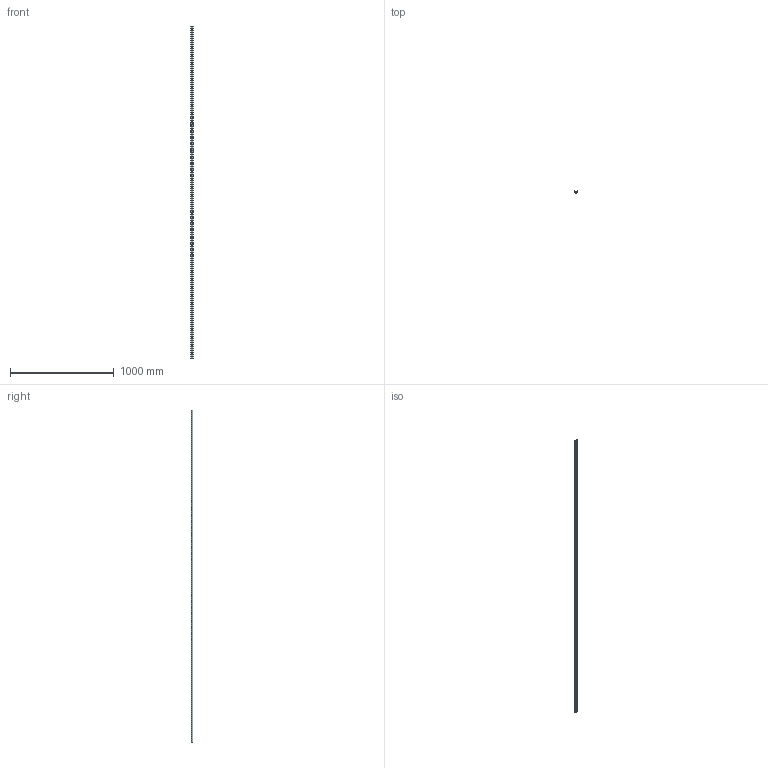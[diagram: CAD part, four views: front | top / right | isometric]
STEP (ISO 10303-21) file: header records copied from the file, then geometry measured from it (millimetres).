
FILE_DESCRIPTION(('STEP AP214'),'1');
FILE_NAME('rail_tex26-3200.stp','2019-03-08T08:29:41',('TraceParts'),('TraceParts S.A.'),'Spatial InterOp 3D',' ',' ');
FILE_SCHEMA(('automotive_design'));
Length unit declared in the file: millimetre
Products named in the file (1): rail_tex26-3200
Bounding box: 26.06 x 14 x 3200 mm (x, y, z)
Volume: 331287.5 mm3; surface area: 282067.4 mm2
Topology: 1 solids, 1 shells, 676 faces, 1752 edges, 1168 vertices
Faces by surface type: plane 474, bspline 110, cylinder 92
Entity records: 42873 total; most frequent: CARTESIAN_POINT 21267, ORIENTED_EDGE 3504, DIRECTION 2850, EDGE_CURVE 1752, LINE 1348, VECTOR 1348, VERTEX_POINT 1168, EDGE_LOOP 846
